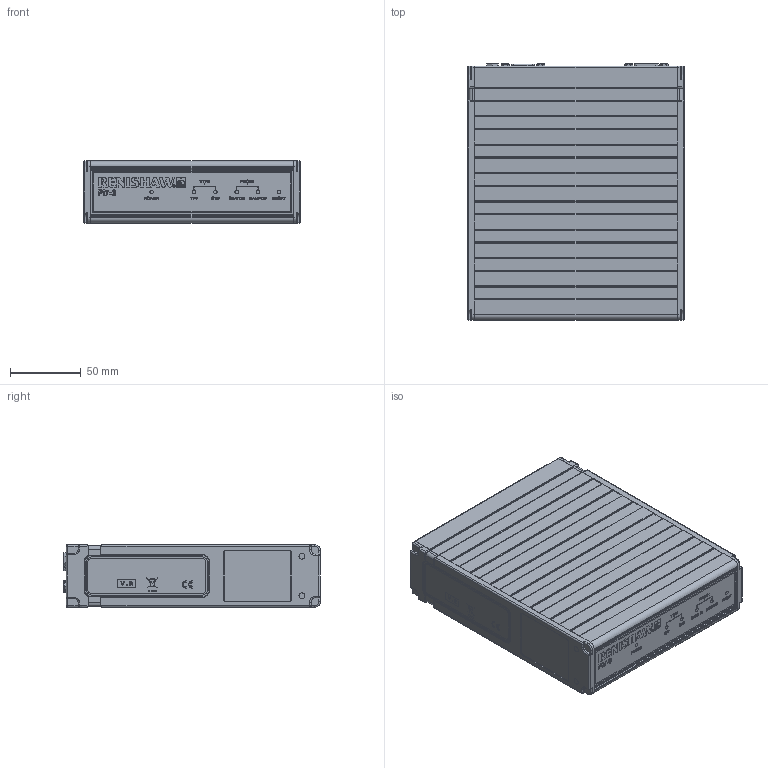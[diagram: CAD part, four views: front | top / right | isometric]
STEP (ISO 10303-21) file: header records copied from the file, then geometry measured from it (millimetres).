
FILE_DESCRIPTION(/* description */ (''),/* implementation_level */ '2;1');
FILE_NAME(/* name */ 'LA-5726-0100-A_PI7-3 ASSEMBLY.stp',/* time_stamp */ '2021-10-04T13:19:55+01:00',/* author */ (''),/* organization */ (''),/* preprocessor_version */ 'ST-DEVELOPER v16.7',/* originating_system */ 'SIEMENS PLM Software NX 1946',/* authorisation */ '');
FILE_SCHEMA (('AUTOMOTIVE_DESIGN { 1 0 10303 214 3 1 1 1 }'));
Products named in the file (1): jh100FB496EAfyh3
Bounding box: 153 x 181.12 x 44.09 mm (x, y, z)
Volume: 1177483.6 mm3; surface area: 86969.1 mm2
Topology: 1 solids, 1 shells, 940 faces, 7173 edges, 6464 vertices
Faces by surface type: plane 515, cylinder 249, cone 72, torus 42, bspline 38, sphere 24
Full cylindrical faces by diameter (mm): 7.5 x1, 9.82 x2
Entity records: 87119 total; most frequent: CARTESIAN_POINT 32704, ORIENTED_EDGE 14286, EDGE_CURVE 7143, VERTEX_POINT 6461, DIRECTION 5066, B_SPLINE_CURVE_WITH_KNOTS 4625, LINE 1776, VECTOR 1776
